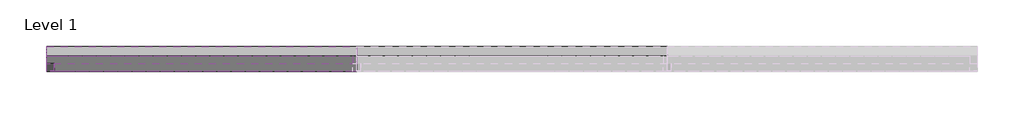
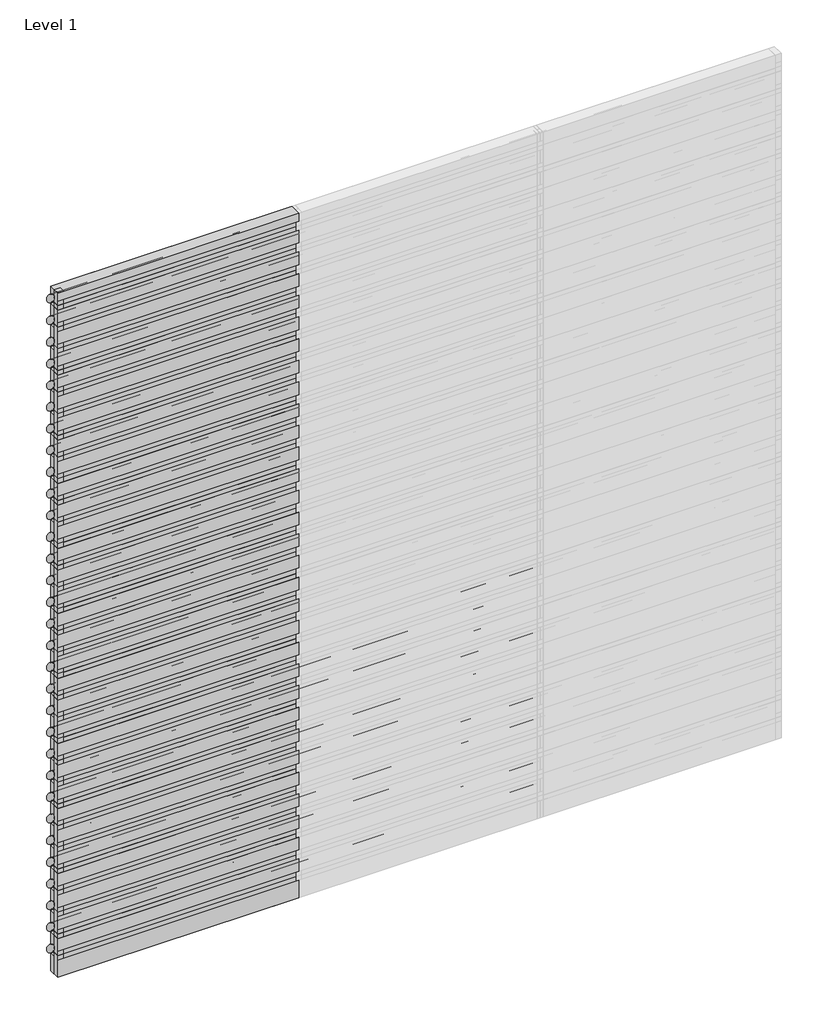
# One storey, part 1 of 3: 74 members, 64 plates.
"""IFC4 building model written with IfcOpenShell, lengths in millimetres."""

from ifc_helpers import new_model, si_unit, origin, place, context, project, spatial, transform, mapped, element, save
from components import rectangular_mullion_18d4e549, rectangular_mullion_768f3252, rectangular_mullion_077c8cc5, empty_system_panel_empty_c392bfdd, empty_system_panel_empty_c228c368, empty_system_panel_empty_0c4ce8c7, empty_system_panel_empty_83ec7203, empty_system_panel_empty_71fd4c2e

model = new_model("IFC4")

# Units and contexts
model_context = context("Model", 3, world=origin())
ifc_project = project(units=[si_unit("LENGTHUNIT", "METRE", prefix="MILLI")], contexts=[model_context])

# Site, building, storey
site = spatial("IfcSite", under=ifc_project)
building = spatial("IfcBuilding", under=site)
storey = spatial("IfcBuildingStorey", under=building, Name="Level 1", Elevation=0.0)

# Members
placement = place(None, origin())
rectangular_mullion_shape = rectangular_mullion_18d4e549(model_context)
element("IfcMember", 1, ObjectType="Rectangular Mullion : RSen_21_CWM_blade - 150 D_gen_duco projects", at=placement, inside=storey, context=model_context, shape_type="MappedRepresentation", body=[
    mapped(rectangular_mullion_shape, transform((2000.0, 3000.0, 190.0), x_axis=(0.0, 0.0, 1.0), y_axis=(0.0, 1.0, 0.0), z_axis=(-1.0, 0.0, 0.0))),
])
element("IfcMember", 2, ObjectType="Rectangular Mullion : RSen_21_CWM_blade - 150 D_gen_duco projects", at=placement, inside=storey, context=model_context, shape_type="MappedRepresentation", body=[
    mapped(rectangular_mullion_shape, transform((2000.0, 3000.0, 380.0), x_axis=(0.0, 0.0, 1.0), y_axis=(0.0, 1.0, 0.0), z_axis=(-1.0, 0.0, 0.0))),
])
element("IfcMember", 3, ObjectType="Rectangular Mullion : RSen_21_CWM_blade - 150 D_gen_duco projects", at=placement, inside=storey, context=model_context, shape_type="MappedRepresentation", body=[
    mapped(rectangular_mullion_shape, transform((2000.0, 3000.0, 570.0), x_axis=(0.0, 0.0, 1.0), y_axis=(0.0, 1.0, 0.0), z_axis=(-1.0, 0.0, 0.0))),
])
element("IfcMember", 4, ObjectType="Rectangular Mullion : RSen_21_CWM_blade - 150 D_gen_duco projects", at=placement, inside=storey, context=model_context, shape_type="MappedRepresentation", body=[
    mapped(rectangular_mullion_shape, transform((2000.0, 3000.0, 760.0), x_axis=(0.0, 0.0, 1.0), y_axis=(0.0, 1.0, 0.0), z_axis=(-1.0, 0.0, 0.0))),
])
element("IfcMember", 5, ObjectType="Rectangular Mullion : RSen_21_CWM_blade - 150 D_gen_duco projects", at=placement, inside=storey, context=model_context, shape_type="MappedRepresentation", body=[
    mapped(rectangular_mullion_shape, transform((2000.0, 3000.0, 950.0), x_axis=(0.0, 0.0, 1.0), y_axis=(0.0, 1.0, 0.0), z_axis=(-1.0, 0.0, 0.0))),
])
element("IfcMember", 6, ObjectType="Rectangular Mullion : RSen_21_CWM_blade - 150 D_gen_duco projects", at=placement, inside=storey, context=model_context, shape_type="MappedRepresentation", body=[
    mapped(rectangular_mullion_shape, transform((2000.0, 3000.0, 1140.0), x_axis=(0.0, 0.0, 1.0), y_axis=(0.0, 1.0, 0.0), z_axis=(-1.0, 0.0, 0.0))),
])
element("IfcMember", 7, ObjectType="Rectangular Mullion : RSen_21_CWM_blade - 150 D_gen_duco projects", at=placement, inside=storey, context=model_context, shape_type="MappedRepresentation", body=[
    mapped(rectangular_mullion_shape, transform((2000.0, 3000.0, 1330.0), x_axis=(0.0, 0.0, 1.0), y_axis=(0.0, 1.0, 0.0), z_axis=(-1.0, 0.0, 0.0))),
])
element("IfcMember", 8, ObjectType="Rectangular Mullion : RSen_21_CWM_blade - 150 D_gen_duco projects", at=placement, inside=storey, context=model_context, shape_type="MappedRepresentation", body=[
    mapped(rectangular_mullion_shape, transform((2000.0, 3000.0, 1520.0), x_axis=(0.0, 0.0, 1.0), y_axis=(0.0, 1.0, 0.0), z_axis=(-1.0, 0.0, 0.0))),
])
element("IfcMember", 9, ObjectType="Rectangular Mullion : RSen_21_CWM_blade - 150 D_gen_duco projects", at=placement, inside=storey, context=model_context, shape_type="MappedRepresentation", body=[
    mapped(rectangular_mullion_shape, transform((2000.0, 3000.0, 1710.0), x_axis=(0.0, 0.0, 1.0), y_axis=(0.0, 1.0, 0.0), z_axis=(-1.0, 0.0, 0.0))),
])
element("IfcMember", 10, ObjectType="Rectangular Mullion : RSen_21_CWM_blade - 150 D_gen_duco projects", at=placement, inside=storey, context=model_context, shape_type="MappedRepresentation", body=[
    mapped(rectangular_mullion_shape, transform((2000.0, 3000.0, 1900.0), x_axis=(0.0, 0.0, 1.0), y_axis=(0.0, 1.0, 0.0), z_axis=(-1.0, 0.0, 0.0))),
])
element("IfcMember", 11, ObjectType="Rectangular Mullion : RSen_21_CWM_blade - 150 D_gen_duco projects", at=placement, inside=storey, context=model_context, shape_type="MappedRepresentation", body=[
    mapped(rectangular_mullion_shape, transform((2000.0, 3000.0, 2090.0), x_axis=(0.0, 0.0, 1.0), y_axis=(0.0, 1.0, 0.0), z_axis=(-1.0, 0.0, 0.0))),
])
element("IfcMember", 12, ObjectType="Rectangular Mullion : RSen_21_CWM_blade - 150 D_gen_duco projects", at=placement, inside=storey, context=model_context, shape_type="MappedRepresentation", body=[
    mapped(rectangular_mullion_shape, transform((0.0, 3000.0, 190.0), x_axis=(0.0, 0.0, 1.0), y_axis=(0.0, 1.0, 0.0), z_axis=(-1.0, 0.0, 0.0))),
])
element("IfcMember", 13, ObjectType="Rectangular Mullion : RSen_21_CWM_blade - 150 D_gen_duco projects", at=placement, inside=storey, context=model_context, shape_type="MappedRepresentation", body=[
    mapped(rectangular_mullion_shape, transform((0.0, 3000.0, 380.0), x_axis=(0.0, 0.0, 1.0), y_axis=(0.0, 1.0, 0.0), z_axis=(-1.0, 0.0, 0.0))),
])
element("IfcMember", 14, ObjectType="Rectangular Mullion : RSen_21_CWM_blade - 150 D_gen_duco projects", at=placement, inside=storey, context=model_context, shape_type="MappedRepresentation", body=[
    mapped(rectangular_mullion_shape, transform((0.0, 3000.0, 570.0), x_axis=(0.0, 0.0, 1.0), y_axis=(0.0, 1.0, 0.0), z_axis=(-1.0, 0.0, 0.0))),
])
element("IfcMember", 15, ObjectType="Rectangular Mullion : RSen_21_CWM_blade - 150 D_gen_duco projects", at=placement, inside=storey, context=model_context, shape_type="MappedRepresentation", body=[
    mapped(rectangular_mullion_shape, transform((0.0, 3000.0, 760.0), x_axis=(0.0, 0.0, 1.0), y_axis=(0.0, 1.0, 0.0), z_axis=(-1.0, 0.0, 0.0))),
])
element("IfcMember", 16, ObjectType="Rectangular Mullion : RSen_21_CWM_blade - 150 D_gen_duco projects", at=placement, inside=storey, context=model_context, shape_type="MappedRepresentation", body=[
    mapped(rectangular_mullion_shape, transform((0.0, 3000.0, 950.0), x_axis=(0.0, 0.0, 1.0), y_axis=(0.0, 1.0, 0.0), z_axis=(-1.0, 0.0, 0.0))),
])
element("IfcMember", 17, ObjectType="Rectangular Mullion : RSen_21_CWM_blade - 150 D_gen_duco projects", at=placement, inside=storey, context=model_context, shape_type="MappedRepresentation", body=[
    mapped(rectangular_mullion_shape, transform((0.0, 3000.0, 1140.0), x_axis=(0.0, 0.0, 1.0), y_axis=(0.0, 1.0, 0.0), z_axis=(-1.0, 0.0, 0.0))),
])
element("IfcMember", 18, ObjectType="Rectangular Mullion : RSen_21_CWM_blade - 150 D_gen_duco projects", at=placement, inside=storey, context=model_context, shape_type="MappedRepresentation", body=[
    mapped(rectangular_mullion_shape, transform((0.0, 3000.0, 1330.0), x_axis=(0.0, 0.0, 1.0), y_axis=(0.0, 1.0, 0.0), z_axis=(-1.0, 0.0, 0.0))),
])
element("IfcMember", 19, ObjectType="Rectangular Mullion : RSen_21_CWM_blade - 150 D_gen_duco projects", at=placement, inside=storey, context=model_context, shape_type="MappedRepresentation", body=[
    mapped(rectangular_mullion_shape, transform((0.0, 3000.0, 1520.0), x_axis=(0.0, 0.0, 1.0), y_axis=(0.0, 1.0, 0.0), z_axis=(-1.0, 0.0, 0.0))),
])
element("IfcMember", 20, ObjectType="Rectangular Mullion : RSen_21_CWM_blade - 150 D_gen_duco projects", at=placement, inside=storey, context=model_context, shape_type="MappedRepresentation", body=[
    mapped(rectangular_mullion_shape, transform((0.0, 3000.0, 1710.0), x_axis=(0.0, 0.0, 1.0), y_axis=(0.0, 1.0, 0.0), z_axis=(-1.0, 0.0, 0.0))),
])
element("IfcMember", 21, ObjectType="Rectangular Mullion : RSen_21_CWM_blade - 150 D_gen_duco projects", at=placement, inside=storey, context=model_context, shape_type="MappedRepresentation", body=[
    mapped(rectangular_mullion_shape, transform((0.0, 3000.0, 1900.0), x_axis=(0.0, 0.0, 1.0), y_axis=(0.0, 1.0, 0.0), z_axis=(-1.0, 0.0, 0.0))),
])
element("IfcMember", 22, ObjectType="Rectangular Mullion : RSen_21_CWM_blade - 150 D_gen_duco projects", at=placement, inside=storey, context=model_context, shape_type="MappedRepresentation", body=[
    mapped(rectangular_mullion_shape, transform((0.0, 3000.0, 2090.0), x_axis=(0.0, 0.0, 1.0), y_axis=(0.0, 1.0, 0.0), z_axis=(-1.0, 0.0, 0.0))),
])
element("IfcMember", 23, ObjectType="Rectangular Mullion : RSen_21_CWM_blade - 150 D_gen_duco projects", at=placement, inside=storey, context=model_context, shape_type="MappedRepresentation", body=[
    mapped(rectangular_mullion_shape, transform((0.0, 3000.0, 2280.0), x_axis=(0.0, 0.0, 1.0), y_axis=(0.0, 1.0, 0.0), z_axis=(-1.0, 0.0, 0.0))),
])
element("IfcMember", 24, ObjectType="Rectangular Mullion : RSen_21_CWM_blade - 150 D_gen_duco projects", at=placement, inside=storey, context=model_context, shape_type="MappedRepresentation", body=[
    mapped(rectangular_mullion_shape, transform((0.0, 3000.0, 2470.0), x_axis=(0.0, 0.0, 1.0), y_axis=(0.0, 1.0, 0.0), z_axis=(-1.0, 0.0, 0.0))),
])
element("IfcMember", 25, ObjectType="Rectangular Mullion : RSen_21_CWM_blade - 150 D_gen_duco projects", at=placement, inside=storey, context=model_context, shape_type="MappedRepresentation", body=[
    mapped(rectangular_mullion_shape, transform((0.0, 3000.0, 2660.0), x_axis=(0.0, 0.0, 1.0), y_axis=(0.0, 1.0, 0.0), z_axis=(-1.0, 0.0, 0.0))),
])
element("IfcMember", 26, ObjectType="Rectangular Mullion : RSen_21_CWM_blade - 150 D_gen_duco projects", at=placement, inside=storey, context=model_context, shape_type="MappedRepresentation", body=[
    mapped(rectangular_mullion_shape, transform((0.0, 3000.0, 2850.0), x_axis=(0.0, 0.0, 1.0), y_axis=(0.0, 1.0, 0.0), z_axis=(-1.0, 0.0, 0.0))),
])
element("IfcMember", 27, ObjectType="Rectangular Mullion : RSen_21_CWM_blade - 150 D_gen_duco projects", at=placement, inside=storey, context=model_context, shape_type="MappedRepresentation", body=[
    mapped(rectangular_mullion_shape, transform((0.0, 3000.0, 3040.0), x_axis=(0.0, 0.0, 1.0), y_axis=(0.0, 1.0, 0.0), z_axis=(-1.0, 0.0, 0.0))),
])
element("IfcMember", 28, ObjectType="Rectangular Mullion : RSen_21_CWM_blade - 150 D_gen_duco projects", at=placement, inside=storey, context=model_context, shape_type="MappedRepresentation", body=[
    mapped(rectangular_mullion_shape, transform((0.0, 3000.0, 3230.0), x_axis=(0.0, 0.0, 1.0), y_axis=(0.0, 1.0, 0.0), z_axis=(-1.0, 0.0, 0.0))),
])
element("IfcMember", 29, ObjectType="Rectangular Mullion : RSen_21_CWM_blade - 150 D_gen_duco projects", at=placement, inside=storey, context=model_context, shape_type="MappedRepresentation", body=[
    mapped(rectangular_mullion_shape, transform((0.0, 3000.0, 3420.0), x_axis=(0.0, 0.0, 1.0), y_axis=(0.0, 1.0, 0.0), z_axis=(-1.0, 0.0, 0.0))),
])
element("IfcMember", 30, ObjectType="Rectangular Mullion : RSen_21_CWM_blade - 150 D_gen_duco projects", at=placement, inside=storey, context=model_context, shape_type="MappedRepresentation", body=[
    mapped(rectangular_mullion_shape, transform((0.0, 3000.0, 3610.0), x_axis=(0.0, 0.0, 1.0), y_axis=(0.0, 1.0, 0.0), z_axis=(-1.0, 0.0, 0.0))),
])
element("IfcMember", 31, ObjectType="Rectangular Mullion : RSen_21_CWM_blade - 150 D_gen_duco projects", at=placement, inside=storey, context=model_context, shape_type="MappedRepresentation", body=[
    mapped(rectangular_mullion_shape, transform((0.0, 3000.0, 3800.0), x_axis=(0.0, 0.0, 1.0), y_axis=(0.0, 1.0, 0.0), z_axis=(-1.0, 0.0, 0.0))),
])
element("IfcMember", 32, ObjectType="Rectangular Mullion : RSen_21_CWM_blade - 150 D_gen_duco projects", at=placement, inside=storey, context=model_context, shape_type="MappedRepresentation", body=[
    mapped(rectangular_mullion_shape, transform((0.0, 3000.0, 3990.0), x_axis=(0.0, 0.0, 1.0), y_axis=(0.0, 1.0, 0.0), z_axis=(-1.0, 0.0, 0.0))),
])
element("IfcMember", 33, ObjectType="Rectangular Mullion : RSen_21_CWM_blade - 150 D_gen_duco projects", at=placement, inside=storey, context=model_context, shape_type="MappedRepresentation", body=[
    mapped(rectangular_mullion_shape, transform((0.0, 3000.0, 4180.0), x_axis=(0.0, 0.0, 1.0), y_axis=(0.0, 1.0, 0.0), z_axis=(-1.0, 0.0, 0.0))),
])
element("IfcMember", 34, ObjectType="Rectangular Mullion : RSen_21_CWM_blade - 150 D_gen_duco projects", at=placement, inside=storey, context=model_context, shape_type="MappedRepresentation", body=[
    mapped(rectangular_mullion_shape, transform((0.0, 3000.0, 4370.0), x_axis=(0.0, 0.0, 1.0), y_axis=(0.0, 1.0, 0.0), z_axis=(-1.0, 0.0, 0.0))),
])
element("IfcMember", 35, ObjectType="Rectangular Mullion : RSen_21_CWM_blade - 150 D_gen_duco projects", at=placement, inside=storey, context=model_context, shape_type="MappedRepresentation", body=[
    mapped(rectangular_mullion_shape, transform((0.0, 3000.0, 4560.0), x_axis=(0.0, 0.0, 1.0), y_axis=(0.0, 1.0, 0.0), z_axis=(-1.0, 0.0, 0.0))),
])
element("IfcMember", 36, ObjectType="Rectangular Mullion : RSen_21_CWM_blade - 150 D_gen_duco projects", at=placement, inside=storey, context=model_context, shape_type="MappedRepresentation", body=[
    mapped(rectangular_mullion_shape, transform((0.0, 3000.0, 4750.0), x_axis=(0.0, 0.0, 1.0), y_axis=(0.0, 1.0, 0.0), z_axis=(-1.0, 0.0, 0.0))),
])
element("IfcMember", 37, ObjectType="Rectangular Mullion : RSen_21_CWM_blade - 150 D_gen_duco projects", at=placement, inside=storey, context=model_context, shape_type="MappedRepresentation", body=[
    mapped(rectangular_mullion_shape, transform((0.0, 3000.0, 4940.0), x_axis=(0.0, 0.0, 1.0), y_axis=(0.0, 1.0, 0.0), z_axis=(-1.0, 0.0, 0.0))),
])
element("IfcMember", 38, ObjectType="Rectangular Mullion : RSen_21_CWM_blade - 150 D_gen_duco projects", at=placement, inside=storey, context=model_context, shape_type="MappedRepresentation", body=[
    mapped(rectangular_mullion_shape, transform((0.0, 3000.0, 5130.0), x_axis=(0.0, 0.0, 1.0), y_axis=(0.0, 1.0, 0.0), z_axis=(-1.0, 0.0, 0.0))),
])
element("IfcMember", 39, ObjectType="Rectangular Mullion : RSen_21_CWM_blade - 150 D_gen_duco projects", at=placement, inside=storey, context=model_context, shape_type="MappedRepresentation", body=[
    mapped(rectangular_mullion_shape, transform((0.0, 3000.0, 5320.0), x_axis=(0.0, 0.0, 1.0), y_axis=(0.0, 1.0, 0.0), z_axis=(-1.0, 0.0, 0.0))),
])
element("IfcMember", 40, ObjectType="Rectangular Mullion : RSen_21_CWM_blade - 150 D_gen_duco projects", at=placement, inside=storey, context=model_context, shape_type="MappedRepresentation", body=[
    mapped(rectangular_mullion_shape, transform((0.0, 3000.0, 5510.0), x_axis=(0.0, 0.0, 1.0), y_axis=(0.0, 1.0, 0.0), z_axis=(-1.0, 0.0, 0.0))),
])
element("IfcMember", 41, ObjectType="Rectangular Mullion : RSen_21_CWM_blade - 150 D_gen_duco projects", at=placement, inside=storey, context=model_context, shape_type="MappedRepresentation", body=[
    mapped(rectangular_mullion_shape, transform((0.0, 3000.0, 5700.0), x_axis=(0.0, 0.0, 1.0), y_axis=(0.0, 1.0, 0.0), z_axis=(-1.0, 0.0, 0.0))),
])
element("IfcMember", 42, ObjectType="Rectangular Mullion : RSen_21_CWM_blade - 150 D_gen_duco projects", at=placement, inside=storey, context=model_context, shape_type="MappedRepresentation", body=[
    mapped(rectangular_mullion_shape, transform((0.0, 3000.0, 5890.0), x_axis=(0.0, 0.0, 1.0), y_axis=(0.0, 1.0, 0.0), z_axis=(-1.0, 0.0, 0.0))),
])
rectangular_mullion_2_shape = rectangular_mullion_768f3252(model_context)
element("IfcMember", 43, ObjectType="Rectangular Mullion : RSen_21_CWM_support profile 50x50 - left_gen_duco projects", at=placement, inside=storey, context=model_context, shape_type="MappedRepresentation", body=[
    mapped(rectangular_mullion_2_shape, transform((0.0, 3000.0, 0.0), x_axis=(-1.0, 0.0, 0.0), y_axis=(0.0, 1.0, 0.0), z_axis=(0.0, 0.0, -1.0))),
])
element("IfcMember", 44, ObjectType="Rectangular Mullion : RSen_21_CWM_support profile 50x50 - left_gen_duco projects", at=placement, inside=storey, context=model_context, shape_type="MappedRepresentation", body=[
    mapped(rectangular_mullion_2_shape, transform((0.0, 3000.0, 190.0), x_axis=(-1.0, 0.0, 0.0), y_axis=(0.0, 1.0, 0.0), z_axis=(0.0, 0.0, -1.0))),
])
element("IfcMember", 45, ObjectType="Rectangular Mullion : RSen_21_CWM_support profile 50x50 - left_gen_duco projects", at=placement, inside=storey, context=model_context, shape_type="MappedRepresentation", body=[
    mapped(rectangular_mullion_2_shape, transform((0.0, 3000.0, 380.0), x_axis=(-1.0, 0.0, 0.0), y_axis=(0.0, 1.0, 0.0), z_axis=(0.0, 0.0, -1.0))),
])
element("IfcMember", 46, ObjectType="Rectangular Mullion : RSen_21_CWM_support profile 50x50 - left_gen_duco projects", at=placement, inside=storey, context=model_context, shape_type="MappedRepresentation", body=[
    mapped(rectangular_mullion_2_shape, transform((0.0, 3000.0, 570.0), x_axis=(-1.0, 0.0, 0.0), y_axis=(0.0, 1.0, 0.0), z_axis=(0.0, 0.0, -1.0))),
])
element("IfcMember", 47, ObjectType="Rectangular Mullion : RSen_21_CWM_support profile 50x50 - left_gen_duco projects", at=placement, inside=storey, context=model_context, shape_type="MappedRepresentation", body=[
    mapped(rectangular_mullion_2_shape, transform((0.0, 3000.0, 760.0), x_axis=(-1.0, 0.0, 0.0), y_axis=(0.0, 1.0, 0.0), z_axis=(0.0, 0.0, -1.0))),
])
element("IfcMember", 48, ObjectType="Rectangular Mullion : RSen_21_CWM_support profile 50x50 - left_gen_duco projects", at=placement, inside=storey, context=model_context, shape_type="MappedRepresentation", body=[
    mapped(rectangular_mullion_2_shape, transform((0.0, 3000.0, 950.0), x_axis=(-1.0, 0.0, 0.0), y_axis=(0.0, 1.0, 0.0), z_axis=(0.0, 0.0, -1.0))),
])
element("IfcMember", 49, ObjectType="Rectangular Mullion : RSen_21_CWM_support profile 50x50 - left_gen_duco projects", at=placement, inside=storey, context=model_context, shape_type="MappedRepresentation", body=[
    mapped(rectangular_mullion_2_shape, transform((0.0, 3000.0, 1140.0), x_axis=(-1.0, 0.0, 0.0), y_axis=(0.0, 1.0, 0.0), z_axis=(0.0, 0.0, -1.0))),
])
element("IfcMember", 50, ObjectType="Rectangular Mullion : RSen_21_CWM_support profile 50x50 - left_gen_duco projects", at=placement, inside=storey, context=model_context, shape_type="MappedRepresentation", body=[
    mapped(rectangular_mullion_2_shape, transform((0.0, 3000.0, 1330.0), x_axis=(-1.0, 0.0, 0.0), y_axis=(0.0, 1.0, 0.0), z_axis=(0.0, 0.0, -1.0))),
])
element("IfcMember", 51, ObjectType="Rectangular Mullion : RSen_21_CWM_support profile 50x50 - left_gen_duco projects", at=placement, inside=storey, context=model_context, shape_type="MappedRepresentation", body=[
    mapped(rectangular_mullion_2_shape, transform((0.0, 3000.0, 1520.0), x_axis=(-1.0, 0.0, 0.0), y_axis=(0.0, 1.0, 0.0), z_axis=(0.0, 0.0, -1.0))),
])
element("IfcMember", 52, ObjectType="Rectangular Mullion : RSen_21_CWM_support profile 50x50 - left_gen_duco projects", at=placement, inside=storey, context=model_context, shape_type="MappedRepresentation", body=[
    mapped(rectangular_mullion_2_shape, transform((0.0, 3000.0, 1710.0), x_axis=(-1.0, 0.0, 0.0), y_axis=(0.0, 1.0, 0.0), z_axis=(0.0, 0.0, -1.0))),
])
element("IfcMember", 53, ObjectType="Rectangular Mullion : RSen_21_CWM_support profile 50x50 - left_gen_duco projects", at=placement, inside=storey, context=model_context, shape_type="MappedRepresentation", body=[
    mapped(rectangular_mullion_2_shape, transform((0.0, 3000.0, 1900.0), x_axis=(-1.0, 0.0, 0.0), y_axis=(0.0, 1.0, 0.0), z_axis=(0.0, 0.0, -1.0))),
])
element("IfcMember", 54, ObjectType="Rectangular Mullion : RSen_21_CWM_support profile 50x50 - left_gen_duco projects", at=placement, inside=storey, context=model_context, shape_type="MappedRepresentation", body=[
    mapped(rectangular_mullion_2_shape, transform((0.0, 3000.0, 2090.0), x_axis=(-1.0, 0.0, 0.0), y_axis=(0.0, 1.0, 0.0), z_axis=(0.0, 0.0, -1.0))),
])
element("IfcMember", 55, ObjectType="Rectangular Mullion : RSen_21_CWM_support profile 50x50 - left_gen_duco projects", at=placement, inside=storey, context=model_context, shape_type="MappedRepresentation", body=[
    mapped(rectangular_mullion_2_shape, transform((0.0, 3000.0, 2280.0), x_axis=(-1.0, 0.0, 0.0), y_axis=(0.0, 1.0, 0.0), z_axis=(0.0, 0.0, -1.0))),
])
element("IfcMember", 56, ObjectType="Rectangular Mullion : RSen_21_CWM_support profile 50x50 - left_gen_duco projects", at=placement, inside=storey, context=model_context, shape_type="MappedRepresentation", body=[
    mapped(rectangular_mullion_2_shape, transform((0.0, 3000.0, 2470.0), x_axis=(-1.0, 0.0, 0.0), y_axis=(0.0, 1.0, 0.0), z_axis=(0.0, 0.0, -1.0))),
])
element("IfcMember", 57, ObjectType="Rectangular Mullion : RSen_21_CWM_support profile 50x50 - left_gen_duco projects", at=placement, inside=storey, context=model_context, shape_type="MappedRepresentation", body=[
    mapped(rectangular_mullion_2_shape, transform((0.0, 3000.0, 2660.0), x_axis=(-1.0, 0.0, 0.0), y_axis=(0.0, 1.0, 0.0), z_axis=(0.0, 0.0, -1.0))),
])
element("IfcMember", 58, ObjectType="Rectangular Mullion : RSen_21_CWM_support profile 50x50 - left_gen_duco projects", at=placement, inside=storey, context=model_context, shape_type="MappedRepresentation", body=[
    mapped(rectangular_mullion_2_shape, transform((0.0, 3000.0, 2850.0), x_axis=(-1.0, 0.0, 0.0), y_axis=(0.0, 1.0, 0.0), z_axis=(0.0, 0.0, -1.0))),
])
element("IfcMember", 59, ObjectType="Rectangular Mullion : RSen_21_CWM_support profile 50x50 - left_gen_duco projects", at=placement, inside=storey, context=model_context, shape_type="MappedRepresentation", body=[
    mapped(rectangular_mullion_2_shape, transform((0.0, 3000.0, 3040.0), x_axis=(-1.0, 0.0, 0.0), y_axis=(0.0, 1.0, 0.0), z_axis=(0.0, 0.0, -1.0))),
])
element("IfcMember", 60, ObjectType="Rectangular Mullion : RSen_21_CWM_support profile 50x50 - left_gen_duco projects", at=placement, inside=storey, context=model_context, shape_type="MappedRepresentation", body=[
    mapped(rectangular_mullion_2_shape, transform((0.0, 3000.0, 3230.0), x_axis=(-1.0, 0.0, 0.0), y_axis=(0.0, 1.0, 0.0), z_axis=(0.0, 0.0, -1.0))),
])
element("IfcMember", 61, ObjectType="Rectangular Mullion : RSen_21_CWM_support profile 50x50 - left_gen_duco projects", at=placement, inside=storey, context=model_context, shape_type="MappedRepresentation", body=[
    mapped(rectangular_mullion_2_shape, transform((0.0, 3000.0, 3420.0), x_axis=(-1.0, 0.0, 0.0), y_axis=(0.0, 1.0, 0.0), z_axis=(0.0, 0.0, -1.0))),
])
element("IfcMember", 62, ObjectType="Rectangular Mullion : RSen_21_CWM_support profile 50x50 - left_gen_duco projects", at=placement, inside=storey, context=model_context, shape_type="MappedRepresentation", body=[
    mapped(rectangular_mullion_2_shape, transform((0.0, 3000.0, 3610.0), x_axis=(-1.0, 0.0, 0.0), y_axis=(0.0, 1.0, 0.0), z_axis=(0.0, 0.0, -1.0))),
])
element("IfcMember", 63, ObjectType="Rectangular Mullion : RSen_21_CWM_support profile 50x50 - left_gen_duco projects", at=placement, inside=storey, context=model_context, shape_type="MappedRepresentation", body=[
    mapped(rectangular_mullion_2_shape, transform((0.0, 3000.0, 3800.0), x_axis=(-1.0, 0.0, 0.0), y_axis=(0.0, 1.0, 0.0), z_axis=(0.0, 0.0, -1.0))),
])
element("IfcMember", 64, ObjectType="Rectangular Mullion : RSen_21_CWM_support profile 50x50 - left_gen_duco projects", at=placement, inside=storey, context=model_context, shape_type="MappedRepresentation", body=[
    mapped(rectangular_mullion_2_shape, transform((0.0, 3000.0, 3990.0), x_axis=(-1.0, 0.0, 0.0), y_axis=(0.0, 1.0, 0.0), z_axis=(0.0, 0.0, -1.0))),
])
element("IfcMember", 65, ObjectType="Rectangular Mullion : RSen_21_CWM_support profile 50x50 - left_gen_duco projects", at=placement, inside=storey, context=model_context, shape_type="MappedRepresentation", body=[
    mapped(rectangular_mullion_2_shape, transform((0.0, 3000.0, 4180.0), x_axis=(-1.0, 0.0, 0.0), y_axis=(0.0, 1.0, 0.0), z_axis=(0.0, 0.0, -1.0))),
])
element("IfcMember", 66, ObjectType="Rectangular Mullion : RSen_21_CWM_support profile 50x50 - left_gen_duco projects", at=placement, inside=storey, context=model_context, shape_type="MappedRepresentation", body=[
    mapped(rectangular_mullion_2_shape, transform((0.0, 3000.0, 4370.0), x_axis=(-1.0, 0.0, 0.0), y_axis=(0.0, 1.0, 0.0), z_axis=(0.0, 0.0, -1.0))),
])
element("IfcMember", 67, ObjectType="Rectangular Mullion : RSen_21_CWM_support profile 50x50 - left_gen_duco projects", at=placement, inside=storey, context=model_context, shape_type="MappedRepresentation", body=[
    mapped(rectangular_mullion_2_shape, transform((0.0, 3000.0, 4560.0), x_axis=(-1.0, 0.0, 0.0), y_axis=(0.0, 1.0, 0.0), z_axis=(0.0, 0.0, -1.0))),
])
element("IfcMember", 68, ObjectType="Rectangular Mullion : RSen_21_CWM_support profile 50x50 - left_gen_duco projects", at=placement, inside=storey, context=model_context, shape_type="MappedRepresentation", body=[
    mapped(rectangular_mullion_2_shape, transform((0.0, 3000.0, 4750.0), x_axis=(-1.0, 0.0, 0.0), y_axis=(0.0, 1.0, 0.0), z_axis=(0.0, 0.0, -1.0))),
])
element("IfcMember", 69, ObjectType="Rectangular Mullion : RSen_21_CWM_support profile 50x50 - left_gen_duco projects", at=placement, inside=storey, context=model_context, shape_type="MappedRepresentation", body=[
    mapped(rectangular_mullion_2_shape, transform((0.0, 3000.0, 4940.0), x_axis=(-1.0, 0.0, 0.0), y_axis=(0.0, 1.0, 0.0), z_axis=(0.0, 0.0, -1.0))),
])
element("IfcMember", 70, ObjectType="Rectangular Mullion : RSen_21_CWM_support profile 50x50 - left_gen_duco projects", at=placement, inside=storey, context=model_context, shape_type="MappedRepresentation", body=[
    mapped(rectangular_mullion_2_shape, transform((0.0, 3000.0, 5130.0), x_axis=(-1.0, 0.0, 0.0), y_axis=(0.0, 1.0, 0.0), z_axis=(0.0, 0.0, -1.0))),
])
element("IfcMember", 71, ObjectType="Rectangular Mullion : RSen_21_CWM_support profile 50x50 - left_gen_duco projects", at=placement, inside=storey, context=model_context, shape_type="MappedRepresentation", body=[
    mapped(rectangular_mullion_2_shape, transform((0.0, 3000.0, 5320.0), x_axis=(-1.0, 0.0, 0.0), y_axis=(0.0, 1.0, 0.0), z_axis=(0.0, 0.0, -1.0))),
])
element("IfcMember", 72, ObjectType="Rectangular Mullion : RSen_21_CWM_support profile 50x50 - left_gen_duco projects", at=placement, inside=storey, context=model_context, shape_type="MappedRepresentation", body=[
    mapped(rectangular_mullion_2_shape, transform((0.0, 3000.0, 5510.0), x_axis=(-1.0, 0.0, 0.0), y_axis=(0.0, 1.0, 0.0), z_axis=(0.0, 0.0, -1.0))),
])
element("IfcMember", 73, ObjectType="Rectangular Mullion : RSen_21_CWM_support profile 50x50 - left_gen_duco projects", at=placement, inside=storey, context=model_context, shape_type="MappedRepresentation", body=[
    mapped(rectangular_mullion_2_shape, transform((0.0, 3000.0, 5700.0), x_axis=(-1.0, 0.0, 0.0), y_axis=(0.0, 1.0, 0.0), z_axis=(0.0, 0.0, -1.0))),
])
rectangular_mullion_3_shape = rectangular_mullion_077c8cc5(model_context)
element("IfcMember", 74, ObjectType="Rectangular Mullion : RSen_21_CWM_support profile 50x50 - left_gen_duco projects", at=placement, inside=storey, context=model_context, shape_type="MappedRepresentation", body=[
    mapped(rectangular_mullion_3_shape, transform((0.0, 3000.0, 5890.0), x_axis=(-1.0, 0.0, 0.0), y_axis=(0.0, 1.0, 0.0), z_axis=(0.0, 0.0, -1.0))),
])

# Plates
empty_system_panel_empty_shape = empty_system_panel_empty_c392bfdd(model_context)
element("IfcPlate", 75, ObjectType="Empty System Panel : Empty", at=placement, inside=storey, context=model_context, shape_type="MappedRepresentation", body=[
    mapped(empty_system_panel_empty_shape, transform((1000.0, 3000.0, 0.0), x_axis=(-1.0, 0.0, 0.0), y_axis=(0.0, -1.0, 0.0), z_axis=(0.0, 0.0, 1.0))),
])
empty_system_panel_empty_2_shape = empty_system_panel_empty_c228c368(model_context)
element("IfcPlate", 76, ObjectType="Empty System Panel : Empty", at=placement, inside=storey, context=model_context, shape_type="MappedRepresentation", body=[
    mapped(empty_system_panel_empty_2_shape, transform((1000.0, 3000.0, 229.5979797), x_axis=(-1.0, 0.0, 0.0), y_axis=(0.0, -1.0, 0.0), z_axis=(0.0, 0.0, 1.0))),
])
element("IfcPlate", 77, ObjectType="Empty System Panel : Empty", at=placement, inside=storey, context=model_context, shape_type="MappedRepresentation", body=[
    mapped(empty_system_panel_empty_2_shape, transform((1000.0, 3000.0, 419.5979797), x_axis=(-1.0, 0.0, 0.0), y_axis=(0.0, -1.0, 0.0), z_axis=(0.0, 0.0, 1.0))),
])
element("IfcPlate", 78, ObjectType="Empty System Panel : Empty", at=placement, inside=storey, context=model_context, shape_type="MappedRepresentation", body=[
    mapped(empty_system_panel_empty_2_shape, transform((1000.0, 3000.0, 609.5979797), x_axis=(-1.0, 0.0, 0.0), y_axis=(0.0, -1.0, 0.0), z_axis=(0.0, 0.0, 1.0))),
])
element("IfcPlate", 79, ObjectType="Empty System Panel : Empty", at=placement, inside=storey, context=model_context, shape_type="MappedRepresentation", body=[
    mapped(empty_system_panel_empty_2_shape, transform((1000.0, 3000.0, 799.5979797), x_axis=(-1.0, 0.0, 0.0), y_axis=(0.0, -1.0, 0.0), z_axis=(0.0, 0.0, 1.0))),
])
element("IfcPlate", 80, ObjectType="Empty System Panel : Empty", at=placement, inside=storey, context=model_context, shape_type="MappedRepresentation", body=[
    mapped(empty_system_panel_empty_2_shape, transform((1000.0, 3000.0, 989.5979797), x_axis=(-1.0, 0.0, 0.0), y_axis=(0.0, -1.0, 0.0), z_axis=(0.0, 0.0, 1.0))),
])
element("IfcPlate", 81, ObjectType="Empty System Panel : Empty", at=placement, inside=storey, context=model_context, shape_type="MappedRepresentation", body=[
    mapped(empty_system_panel_empty_2_shape, transform((1000.0, 3000.0, 1179.5979797), x_axis=(-1.0, 0.0, 0.0), y_axis=(0.0, -1.0, 0.0), z_axis=(0.0, 0.0, 1.0))),
])
element("IfcPlate", 82, ObjectType="Empty System Panel : Empty", at=placement, inside=storey, context=model_context, shape_type="MappedRepresentation", body=[
    mapped(empty_system_panel_empty_2_shape, transform((1000.0, 3000.0, 1369.5979797), x_axis=(-1.0, 0.0, 0.0), y_axis=(0.0, -1.0, 0.0), z_axis=(0.0, 0.0, 1.0))),
])
element("IfcPlate", 83, ObjectType="Empty System Panel : Empty", at=placement, inside=storey, context=model_context, shape_type="MappedRepresentation", body=[
    mapped(empty_system_panel_empty_2_shape, transform((1000.0, 3000.0, 1559.5979797), x_axis=(-1.0, 0.0, 0.0), y_axis=(0.0, -1.0, 0.0), z_axis=(0.0, 0.0, 1.0))),
])
element("IfcPlate", 84, ObjectType="Empty System Panel : Empty", at=placement, inside=storey, context=model_context, shape_type="MappedRepresentation", body=[
    mapped(empty_system_panel_empty_2_shape, transform((1000.0, 3000.0, 1749.5979797), x_axis=(-1.0, 0.0, 0.0), y_axis=(0.0, -1.0, 0.0), z_axis=(0.0, 0.0, 1.0))),
])
element("IfcPlate", 85, ObjectType="Empty System Panel : Empty", at=placement, inside=storey, context=model_context, shape_type="MappedRepresentation", body=[
    mapped(empty_system_panel_empty_2_shape, transform((1000.0, 3000.0, 1939.5979797), x_axis=(-1.0, 0.0, 0.0), y_axis=(0.0, -1.0, 0.0), z_axis=(0.0, 0.0, 1.0))),
])
element("IfcPlate", 86, ObjectType="Empty System Panel : Empty", at=placement, inside=storey, context=model_context, shape_type="MappedRepresentation", body=[
    mapped(empty_system_panel_empty_2_shape, transform((1000.0, 3000.0, 2129.5979797), x_axis=(-1.0, 0.0, 0.0), y_axis=(0.0, -1.0, 0.0), z_axis=(0.0, 0.0, 1.0))),
])
element("IfcPlate", 87, ObjectType="Empty System Panel : Empty", at=placement, inside=storey, context=model_context, shape_type="MappedRepresentation", body=[
    mapped(empty_system_panel_empty_2_shape, transform((1000.0, 3000.0, 2319.5979797), x_axis=(-1.0, 0.0, 0.0), y_axis=(0.0, -1.0, 0.0), z_axis=(0.0, 0.0, 1.0))),
])
element("IfcPlate", 88, ObjectType="Empty System Panel : Empty", at=placement, inside=storey, context=model_context, shape_type="MappedRepresentation", body=[
    mapped(empty_system_panel_empty_2_shape, transform((1000.0, 3000.0, 2509.5979797), x_axis=(-1.0, 0.0, 0.0), y_axis=(0.0, -1.0, 0.0), z_axis=(0.0, 0.0, 1.0))),
])
element("IfcPlate", 89, ObjectType="Empty System Panel : Empty", at=placement, inside=storey, context=model_context, shape_type="MappedRepresentation", body=[
    mapped(empty_system_panel_empty_2_shape, transform((1000.0, 3000.0, 2699.5979797), x_axis=(-1.0, 0.0, 0.0), y_axis=(0.0, -1.0, 0.0), z_axis=(0.0, 0.0, 1.0))),
])
element("IfcPlate", 90, ObjectType="Empty System Panel : Empty", at=placement, inside=storey, context=model_context, shape_type="MappedRepresentation", body=[
    mapped(empty_system_panel_empty_2_shape, transform((1000.0, 3000.0, 2889.5979797), x_axis=(-1.0, 0.0, 0.0), y_axis=(0.0, -1.0, 0.0), z_axis=(0.0, 0.0, 1.0))),
])
element("IfcPlate", 91, ObjectType="Empty System Panel : Empty", at=placement, inside=storey, context=model_context, shape_type="MappedRepresentation", body=[
    mapped(empty_system_panel_empty_2_shape, transform((1000.0, 3000.0, 3079.5979797), x_axis=(-1.0, 0.0, 0.0), y_axis=(0.0, -1.0, 0.0), z_axis=(0.0, 0.0, 1.0))),
])
element("IfcPlate", 92, ObjectType="Empty System Panel : Empty", at=placement, inside=storey, context=model_context, shape_type="MappedRepresentation", body=[
    mapped(empty_system_panel_empty_2_shape, transform((1000.0, 3000.0, 3269.5979797), x_axis=(-1.0, 0.0, 0.0), y_axis=(0.0, -1.0, 0.0), z_axis=(0.0, 0.0, 1.0))),
])
element("IfcPlate", 93, ObjectType="Empty System Panel : Empty", at=placement, inside=storey, context=model_context, shape_type="MappedRepresentation", body=[
    mapped(empty_system_panel_empty_2_shape, transform((1000.0, 3000.0, 3459.5979797), x_axis=(-1.0, 0.0, 0.0), y_axis=(0.0, -1.0, 0.0), z_axis=(0.0, 0.0, 1.0))),
])
element("IfcPlate", 94, ObjectType="Empty System Panel : Empty", at=placement, inside=storey, context=model_context, shape_type="MappedRepresentation", body=[
    mapped(empty_system_panel_empty_2_shape, transform((1000.0, 3000.0, 3649.5979797), x_axis=(-1.0, 0.0, 0.0), y_axis=(0.0, -1.0, 0.0), z_axis=(0.0, 0.0, 1.0))),
])
element("IfcPlate", 95, ObjectType="Empty System Panel : Empty", at=placement, inside=storey, context=model_context, shape_type="MappedRepresentation", body=[
    mapped(empty_system_panel_empty_2_shape, transform((1000.0, 3000.0, 3839.5979797), x_axis=(-1.0, 0.0, 0.0), y_axis=(0.0, -1.0, 0.0), z_axis=(0.0, 0.0, 1.0))),
])
element("IfcPlate", 96, ObjectType="Empty System Panel : Empty", at=placement, inside=storey, context=model_context, shape_type="MappedRepresentation", body=[
    mapped(empty_system_panel_empty_2_shape, transform((1000.0, 3000.0, 4029.5979797), x_axis=(-1.0, 0.0, 0.0), y_axis=(0.0, -1.0, 0.0), z_axis=(0.0, 0.0, 1.0))),
])
element("IfcPlate", 97, ObjectType="Empty System Panel : Empty", at=placement, inside=storey, context=model_context, shape_type="MappedRepresentation", body=[
    mapped(empty_system_panel_empty_2_shape, transform((1000.0, 3000.0, 4219.5979797), x_axis=(-1.0, 0.0, 0.0), y_axis=(0.0, -1.0, 0.0), z_axis=(0.0, 0.0, 1.0))),
])
element("IfcPlate", 98, ObjectType="Empty System Panel : Empty", at=placement, inside=storey, context=model_context, shape_type="MappedRepresentation", body=[
    mapped(empty_system_panel_empty_2_shape, transform((1000.0, 3000.0, 4409.5979797), x_axis=(-1.0, 0.0, 0.0), y_axis=(0.0, -1.0, 0.0), z_axis=(0.0, 0.0, 1.0))),
])
element("IfcPlate", 99, ObjectType="Empty System Panel : Empty", at=placement, inside=storey, context=model_context, shape_type="MappedRepresentation", body=[
    mapped(empty_system_panel_empty_2_shape, transform((1000.0, 3000.0, 4599.5979797), x_axis=(-1.0, 0.0, 0.0), y_axis=(0.0, -1.0, 0.0), z_axis=(0.0, 0.0, 1.0))),
])
element("IfcPlate", 100, ObjectType="Empty System Panel : Empty", at=placement, inside=storey, context=model_context, shape_type="MappedRepresentation", body=[
    mapped(empty_system_panel_empty_2_shape, transform((1000.0, 3000.0, 4789.5979797), x_axis=(-1.0, 0.0, 0.0), y_axis=(0.0, -1.0, 0.0), z_axis=(0.0, 0.0, 1.0))),
])
element("IfcPlate", 101, ObjectType="Empty System Panel : Empty", at=placement, inside=storey, context=model_context, shape_type="MappedRepresentation", body=[
    mapped(empty_system_panel_empty_2_shape, transform((1000.0, 3000.0, 4979.5979797), x_axis=(-1.0, 0.0, 0.0), y_axis=(0.0, -1.0, 0.0), z_axis=(0.0, 0.0, 1.0))),
])
element("IfcPlate", 102, ObjectType="Empty System Panel : Empty", at=placement, inside=storey, context=model_context, shape_type="MappedRepresentation", body=[
    mapped(empty_system_panel_empty_2_shape, transform((1000.0, 3000.0, 5169.5979797), x_axis=(-1.0, 0.0, 0.0), y_axis=(0.0, -1.0, 0.0), z_axis=(0.0, 0.0, 1.0))),
])
element("IfcPlate", 103, ObjectType="Empty System Panel : Empty", at=placement, inside=storey, context=model_context, shape_type="MappedRepresentation", body=[
    mapped(empty_system_panel_empty_2_shape, transform((1000.0, 3000.0, 5359.5979797), x_axis=(-1.0, 0.0, 0.0), y_axis=(0.0, -1.0, 0.0), z_axis=(0.0, 0.0, 1.0))),
])
element("IfcPlate", 104, ObjectType="Empty System Panel : Empty", at=placement, inside=storey, context=model_context, shape_type="MappedRepresentation", body=[
    mapped(empty_system_panel_empty_2_shape, transform((1000.0, 3000.0, 5549.5979797), x_axis=(-1.0, 0.0, 0.0), y_axis=(0.0, -1.0, 0.0), z_axis=(0.0, 0.0, 1.0))),
])
element("IfcPlate", 105, ObjectType="Empty System Panel : Empty", at=placement, inside=storey, context=model_context, shape_type="MappedRepresentation", body=[
    mapped(empty_system_panel_empty_2_shape, transform((1000.0, 3000.0, 5739.5979797), x_axis=(-1.0, 0.0, 0.0), y_axis=(0.0, -1.0, 0.0), z_axis=(0.0, 0.0, 1.0))),
])
empty_system_panel_empty_3_shape = empty_system_panel_empty_0c4ce8c7(model_context)
element("IfcPlate", 106, ObjectType="Empty System Panel : Empty", at=placement, inside=storey, context=model_context, shape_type="MappedRepresentation", body=[
    mapped(empty_system_panel_empty_3_shape, transform((1000.0, 3000.0, 5929.5979797), x_axis=(-1.0, 0.0, 0.0), y_axis=(0.0, -1.0, 0.0), z_axis=(0.0, 0.0, 1.0))),
])
empty_system_panel_empty_4_shape = empty_system_panel_empty_83ec7203(model_context)
element("IfcPlate", 107, ObjectType="Empty System Panel : Empty", at=placement, inside=storey, context=model_context, shape_type="MappedRepresentation", body=[
    mapped(empty_system_panel_empty_4_shape, transform((1012.5, 3000.0, 0.0), x_axis=(-1.0, 0.0, 0.0), y_axis=(0.0, -1.0, 0.0), z_axis=(0.0, 0.0, 1.0))),
])
element("IfcPlate", 108, ObjectType="Empty System Panel : Empty", at=placement, inside=storey, context=model_context, shape_type="MappedRepresentation", body=[
    mapped(empty_system_panel_empty_4_shape, transform((1012.5, 3000.0, 190.0), x_axis=(-1.0, 0.0, 0.0), y_axis=(0.0, -1.0, 0.0), z_axis=(0.0, 0.0, 1.0))),
])
element("IfcPlate", 109, ObjectType="Empty System Panel : Empty", at=placement, inside=storey, context=model_context, shape_type="MappedRepresentation", body=[
    mapped(empty_system_panel_empty_4_shape, transform((1012.5, 3000.0, 380.0), x_axis=(-1.0, 0.0, 0.0), y_axis=(0.0, -1.0, 0.0), z_axis=(0.0, 0.0, 1.0))),
])
element("IfcPlate", 110, ObjectType="Empty System Panel : Empty", at=placement, inside=storey, context=model_context, shape_type="MappedRepresentation", body=[
    mapped(empty_system_panel_empty_4_shape, transform((1012.5, 3000.0, 570.0), x_axis=(-1.0, 0.0, 0.0), y_axis=(0.0, -1.0, 0.0), z_axis=(0.0, 0.0, 1.0))),
])
element("IfcPlate", 111, ObjectType="Empty System Panel : Empty", at=placement, inside=storey, context=model_context, shape_type="MappedRepresentation", body=[
    mapped(empty_system_panel_empty_4_shape, transform((1012.5, 3000.0, 760.0), x_axis=(-1.0, 0.0, 0.0), y_axis=(0.0, -1.0, 0.0), z_axis=(0.0, 0.0, 1.0))),
])
element("IfcPlate", 112, ObjectType="Empty System Panel : Empty", at=placement, inside=storey, context=model_context, shape_type="MappedRepresentation", body=[
    mapped(empty_system_panel_empty_4_shape, transform((1012.5, 3000.0, 950.0), x_axis=(-1.0, 0.0, 0.0), y_axis=(0.0, -1.0, 0.0), z_axis=(0.0, 0.0, 1.0))),
])
element("IfcPlate", 113, ObjectType="Empty System Panel : Empty", at=placement, inside=storey, context=model_context, shape_type="MappedRepresentation", body=[
    mapped(empty_system_panel_empty_4_shape, transform((1012.5, 3000.0, 1140.0), x_axis=(-1.0, 0.0, 0.0), y_axis=(0.0, -1.0, 0.0), z_axis=(0.0, 0.0, 1.0))),
])
element("IfcPlate", 114, ObjectType="Empty System Panel : Empty", at=placement, inside=storey, context=model_context, shape_type="MappedRepresentation", body=[
    mapped(empty_system_panel_empty_4_shape, transform((1012.5, 3000.0, 1330.0), x_axis=(-1.0, 0.0, 0.0), y_axis=(0.0, -1.0, 0.0), z_axis=(0.0, 0.0, 1.0))),
])
element("IfcPlate", 115, ObjectType="Empty System Panel : Empty", at=placement, inside=storey, context=model_context, shape_type="MappedRepresentation", body=[
    mapped(empty_system_panel_empty_4_shape, transform((1012.5, 3000.0, 1520.0), x_axis=(-1.0, 0.0, 0.0), y_axis=(0.0, -1.0, 0.0), z_axis=(0.0, 0.0, 1.0))),
])
element("IfcPlate", 116, ObjectType="Empty System Panel : Empty", at=placement, inside=storey, context=model_context, shape_type="MappedRepresentation", body=[
    mapped(empty_system_panel_empty_4_shape, transform((1012.5, 3000.0, 1710.0), x_axis=(-1.0, 0.0, 0.0), y_axis=(0.0, -1.0, 0.0), z_axis=(0.0, 0.0, 1.0))),
])
element("IfcPlate", 117, ObjectType="Empty System Panel : Empty", at=placement, inside=storey, context=model_context, shape_type="MappedRepresentation", body=[
    mapped(empty_system_panel_empty_4_shape, transform((1012.5, 3000.0, 1900.0), x_axis=(-1.0, 0.0, 0.0), y_axis=(0.0, -1.0, 0.0), z_axis=(0.0, 0.0, 1.0))),
])
element("IfcPlate", 118, ObjectType="Empty System Panel : Empty", at=placement, inside=storey, context=model_context, shape_type="MappedRepresentation", body=[
    mapped(empty_system_panel_empty_4_shape, transform((1012.5, 3000.0, 2090.0), x_axis=(-1.0, 0.0, 0.0), y_axis=(0.0, -1.0, 0.0), z_axis=(0.0, 0.0, 1.0))),
])
element("IfcPlate", 119, ObjectType="Empty System Panel : Empty", at=placement, inside=storey, context=model_context, shape_type="MappedRepresentation", body=[
    mapped(empty_system_panel_empty_4_shape, transform((1012.5, 3000.0, 2280.0), x_axis=(-1.0, 0.0, 0.0), y_axis=(0.0, -1.0, 0.0), z_axis=(0.0, 0.0, 1.0))),
])
element("IfcPlate", 120, ObjectType="Empty System Panel : Empty", at=placement, inside=storey, context=model_context, shape_type="MappedRepresentation", body=[
    mapped(empty_system_panel_empty_4_shape, transform((1012.5, 3000.0, 2470.0), x_axis=(-1.0, 0.0, 0.0), y_axis=(0.0, -1.0, 0.0), z_axis=(0.0, 0.0, 1.0))),
])
element("IfcPlate", 121, ObjectType="Empty System Panel : Empty", at=placement, inside=storey, context=model_context, shape_type="MappedRepresentation", body=[
    mapped(empty_system_panel_empty_4_shape, transform((1012.5, 3000.0, 2660.0), x_axis=(-1.0, 0.0, 0.0), y_axis=(0.0, -1.0, 0.0), z_axis=(0.0, 0.0, 1.0))),
])
element("IfcPlate", 122, ObjectType="Empty System Panel : Empty", at=placement, inside=storey, context=model_context, shape_type="MappedRepresentation", body=[
    mapped(empty_system_panel_empty_4_shape, transform((1012.5, 3000.0, 2850.0), x_axis=(-1.0, 0.0, 0.0), y_axis=(0.0, -1.0, 0.0), z_axis=(0.0, 0.0, 1.0))),
])
element("IfcPlate", 123, ObjectType="Empty System Panel : Empty", at=placement, inside=storey, context=model_context, shape_type="MappedRepresentation", body=[
    mapped(empty_system_panel_empty_4_shape, transform((1012.5, 3000.0, 3040.0), x_axis=(-1.0, 0.0, 0.0), y_axis=(0.0, -1.0, 0.0), z_axis=(0.0, 0.0, 1.0))),
])
element("IfcPlate", 124, ObjectType="Empty System Panel : Empty", at=placement, inside=storey, context=model_context, shape_type="MappedRepresentation", body=[
    mapped(empty_system_panel_empty_4_shape, transform((1012.5, 3000.0, 3230.0), x_axis=(-1.0, 0.0, 0.0), y_axis=(0.0, -1.0, 0.0), z_axis=(0.0, 0.0, 1.0))),
])
element("IfcPlate", 125, ObjectType="Empty System Panel : Empty", at=placement, inside=storey, context=model_context, shape_type="MappedRepresentation", body=[
    mapped(empty_system_panel_empty_4_shape, transform((1012.5, 3000.0, 3420.0), x_axis=(-1.0, 0.0, 0.0), y_axis=(0.0, -1.0, 0.0), z_axis=(0.0, 0.0, 1.0))),
])
element("IfcPlate", 126, ObjectType="Empty System Panel : Empty", at=placement, inside=storey, context=model_context, shape_type="MappedRepresentation", body=[
    mapped(empty_system_panel_empty_4_shape, transform((1012.5, 3000.0, 3610.0), x_axis=(-1.0, 0.0, 0.0), y_axis=(0.0, -1.0, 0.0), z_axis=(0.0, 0.0, 1.0))),
])
element("IfcPlate", 127, ObjectType="Empty System Panel : Empty", at=placement, inside=storey, context=model_context, shape_type="MappedRepresentation", body=[
    mapped(empty_system_panel_empty_4_shape, transform((1012.5, 3000.0, 3800.0), x_axis=(-1.0, 0.0, 0.0), y_axis=(0.0, -1.0, 0.0), z_axis=(0.0, 0.0, 1.0))),
])
element("IfcPlate", 128, ObjectType="Empty System Panel : Empty", at=placement, inside=storey, context=model_context, shape_type="MappedRepresentation", body=[
    mapped(empty_system_panel_empty_4_shape, transform((1012.5, 3000.0, 3990.0), x_axis=(-1.0, 0.0, 0.0), y_axis=(0.0, -1.0, 0.0), z_axis=(0.0, 0.0, 1.0))),
])
element("IfcPlate", 129, ObjectType="Empty System Panel : Empty", at=placement, inside=storey, context=model_context, shape_type="MappedRepresentation", body=[
    mapped(empty_system_panel_empty_4_shape, transform((1012.5, 3000.0, 4180.0), x_axis=(-1.0, 0.0, 0.0), y_axis=(0.0, -1.0, 0.0), z_axis=(0.0, 0.0, 1.0))),
])
element("IfcPlate", 130, ObjectType="Empty System Panel : Empty", at=placement, inside=storey, context=model_context, shape_type="MappedRepresentation", body=[
    mapped(empty_system_panel_empty_4_shape, transform((1012.5, 3000.0, 4370.0), x_axis=(-1.0, 0.0, 0.0), y_axis=(0.0, -1.0, 0.0), z_axis=(0.0, 0.0, 1.0))),
])
element("IfcPlate", 131, ObjectType="Empty System Panel : Empty", at=placement, inside=storey, context=model_context, shape_type="MappedRepresentation", body=[
    mapped(empty_system_panel_empty_4_shape, transform((1012.5, 3000.0, 4560.0), x_axis=(-1.0, 0.0, 0.0), y_axis=(0.0, -1.0, 0.0), z_axis=(0.0, 0.0, 1.0))),
])
element("IfcPlate", 132, ObjectType="Empty System Panel : Empty", at=placement, inside=storey, context=model_context, shape_type="MappedRepresentation", body=[
    mapped(empty_system_panel_empty_4_shape, transform((1012.5, 3000.0, 4750.0), x_axis=(-1.0, 0.0, 0.0), y_axis=(0.0, -1.0, 0.0), z_axis=(0.0, 0.0, 1.0))),
])
element("IfcPlate", 133, ObjectType="Empty System Panel : Empty", at=placement, inside=storey, context=model_context, shape_type="MappedRepresentation", body=[
    mapped(empty_system_panel_empty_4_shape, transform((1012.5, 3000.0, 4940.0), x_axis=(-1.0, 0.0, 0.0), y_axis=(0.0, -1.0, 0.0), z_axis=(0.0, 0.0, 1.0))),
])
element("IfcPlate", 134, ObjectType="Empty System Panel : Empty", at=placement, inside=storey, context=model_context, shape_type="MappedRepresentation", body=[
    mapped(empty_system_panel_empty_4_shape, transform((1012.5, 3000.0, 5130.0), x_axis=(-1.0, 0.0, 0.0), y_axis=(0.0, -1.0, 0.0), z_axis=(0.0, 0.0, 1.0))),
])
element("IfcPlate", 135, ObjectType="Empty System Panel : Empty", at=placement, inside=storey, context=model_context, shape_type="MappedRepresentation", body=[
    mapped(empty_system_panel_empty_4_shape, transform((1012.5, 3000.0, 5320.0), x_axis=(-1.0, 0.0, 0.0), y_axis=(0.0, -1.0, 0.0), z_axis=(0.0, 0.0, 1.0))),
])
element("IfcPlate", 136, ObjectType="Empty System Panel : Empty", at=placement, inside=storey, context=model_context, shape_type="MappedRepresentation", body=[
    mapped(empty_system_panel_empty_4_shape, transform((1012.5, 3000.0, 5510.0), x_axis=(-1.0, 0.0, 0.0), y_axis=(0.0, -1.0, 0.0), z_axis=(0.0, 0.0, 1.0))),
])
element("IfcPlate", 137, ObjectType="Empty System Panel : Empty", at=placement, inside=storey, context=model_context, shape_type="MappedRepresentation", body=[
    mapped(empty_system_panel_empty_4_shape, transform((1012.5, 3000.0, 5700.0), x_axis=(-1.0, 0.0, 0.0), y_axis=(0.0, -1.0, 0.0), z_axis=(0.0, 0.0, 1.0))),
])
empty_system_panel_empty_5_shape = empty_system_panel_empty_71fd4c2e(model_context)
element("IfcPlate", 138, ObjectType="Empty System Panel : Empty", at=placement, inside=storey, context=model_context, shape_type="MappedRepresentation", body=[
    mapped(empty_system_panel_empty_5_shape, transform((1012.5, 3000.0, 5890.0), x_axis=(-1.0, 0.0, 0.0), y_axis=(0.0, -1.0, 0.0), z_axis=(0.0, 0.0, 1.0))),
])

save(model, "model.ifc")
